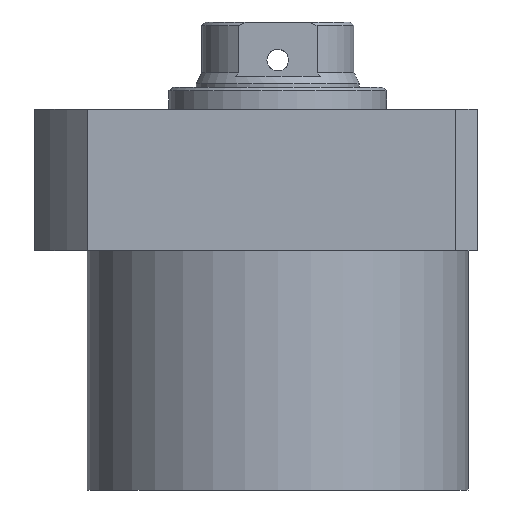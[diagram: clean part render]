
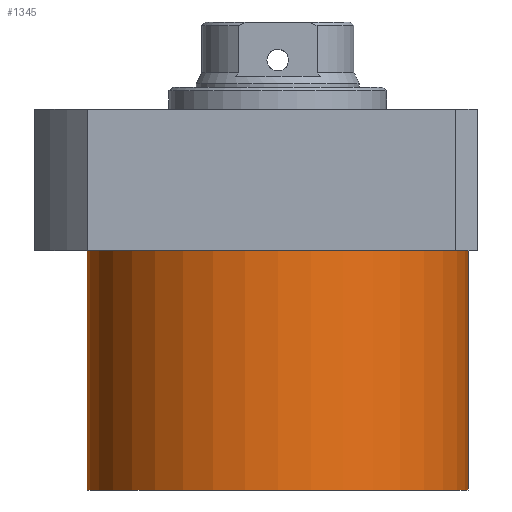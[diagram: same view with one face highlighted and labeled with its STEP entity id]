
A CAD part, front view. The second image highlights one B-rep face of the part: STEP entity #1345.
In plain terms, the highlighted cylindrical face has radius 52.5 mm (diameter 105 mm), a partial arc.
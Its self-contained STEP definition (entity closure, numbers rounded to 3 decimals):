
#11 = CARTESIAN_POINT ( 'NONE',  ( 0., 0., -19.5 ) ) ;
#17 = CYLINDRICAL_SURFACE ( 'NONE', #358, 52.5 ) ;
#26 = CARTESIAN_POINT ( 'NONE',  ( 0., 0., -85.5 ) ) ;
#136 = VERTEX_POINT ( 'NONE', #551 ) ;
#161 = ORIENTED_EDGE ( 'NONE', *, *, #1446, .F. ) ;
#233 = DIRECTION ( 'NONE',  ( -1., 0., 0. ) ) ;
#234 = ORIENTED_EDGE ( 'NONE', *, *, #1355, .T. ) ;
#340 = VECTOR ( 'NONE', #347, 1000. ) ;
#347 = DIRECTION ( 'NONE',  ( 0., 0., 1. ) ) ;
#358 = AXIS2_PLACEMENT_3D ( 'NONE', #26, #2035, #1681 ) ;
#418 = ORIENTED_EDGE ( 'NONE', *, *, #1224, .F. ) ;
#551 = CARTESIAN_POINT ( 'NONE',  ( 52.5, 0., -19.5 ) ) ;
#577 = CARTESIAN_POINT ( 'NONE',  ( 0., 0., -85.5 ) ) ;
#716 = DIRECTION ( 'NONE',  ( 0., 0., 1. ) ) ;
#850 = AXIS2_PLACEMENT_3D ( 'NONE', #11, #978, #1487 ) ;
#868 = CIRCLE ( 'NONE', #850, 52.5 ) ;
#945 = LINE ( 'NONE', #2074, #1977 ) ;
#978 = DIRECTION ( 'NONE',  ( 0., 0., -1. ) ) ;
#999 = CARTESIAN_POINT ( 'NONE',  ( 52.5, 0., -85.5 ) ) ;
#1004 = CARTESIAN_POINT ( 'NONE',  ( 52.5, 0., -85.5 ) ) ;
#1040 = EDGE_LOOP ( 'NONE', ( #161, #418, #234, #1111 ) ) ;
#1111 = ORIENTED_EDGE ( 'NONE', *, *, #1626, .T. ) ;
#1159 = VERTEX_POINT ( 'NONE', #1380 ) ;
#1224 = EDGE_CURVE ( 'NONE', #1644, #1576, #1872, .T. ) ;
#1237 = DIRECTION ( 'NONE',  ( 0., 0., -1. ) ) ;
#1345 = ADVANCED_FACE ( 'NONE', ( #1441 ), #17, .T. ) ;
#1355 = EDGE_CURVE ( 'NONE', #1644, #136, #1633, .T. ) ;
#1380 = CARTESIAN_POINT ( 'NONE',  ( -52.5, 0., -19.5 ) ) ;
#1441 = FACE_OUTER_BOUND ( 'NONE', #1040, .T. ) ;
#1446 = EDGE_CURVE ( 'NONE', #1576, #1159, #945, .T. ) ;
#1487 = DIRECTION ( 'NONE',  ( 1., 0., 0. ) ) ;
#1576 = VERTEX_POINT ( 'NONE', #1964 ) ;
#1626 = EDGE_CURVE ( 'NONE', #136, #1159, #868, .T. ) ;
#1633 = LINE ( 'NONE', #1004, #340 ) ;
#1644 = VERTEX_POINT ( 'NONE', #999 ) ;
#1681 = DIRECTION ( 'NONE',  ( 1., 0., 0. ) ) ;
#1835 = AXIS2_PLACEMENT_3D ( 'NONE', #577, #1237, #233 ) ;
#1872 = CIRCLE ( 'NONE', #1835, 52.5 ) ;
#1964 = CARTESIAN_POINT ( 'NONE',  ( -52.5, 0., -85.5 ) ) ;
#1977 = VECTOR ( 'NONE', #716, 1000. ) ;
#2035 = DIRECTION ( 'NONE',  ( 0., 0., 1. ) ) ;
#2074 = CARTESIAN_POINT ( 'NONE',  ( -52.5, 0., -85.5 ) ) ;
